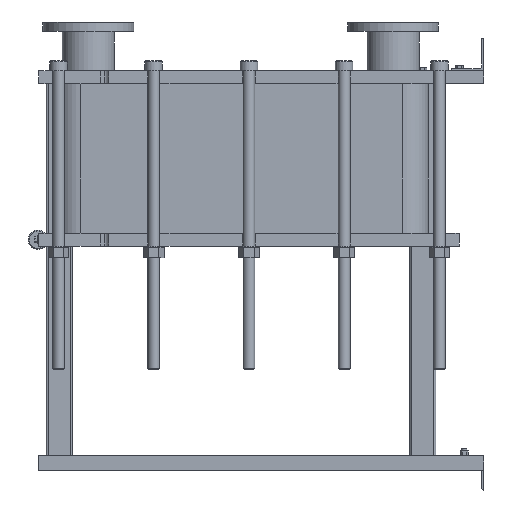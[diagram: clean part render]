
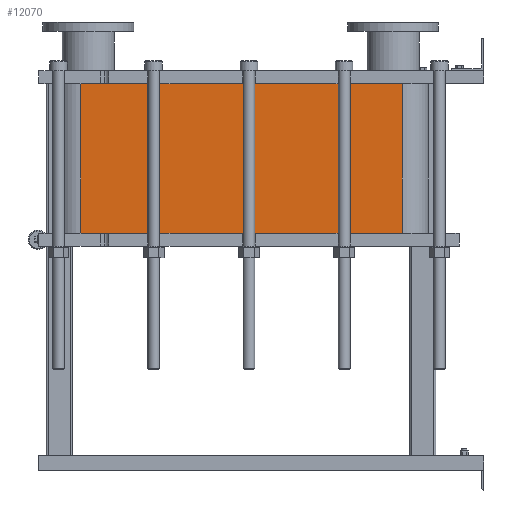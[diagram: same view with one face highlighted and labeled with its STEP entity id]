
A CAD part, left-side view. The second image highlights one B-rep face of the part: STEP entity #12070.
In plain terms, the highlighted planar face has unit normal (-1, 0, 0).
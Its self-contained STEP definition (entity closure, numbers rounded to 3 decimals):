
#1064=LINE('',#21140,#2164);
#1065=LINE('',#21144,#2165);
#1066=LINE('',#21146,#2166);
#1067=LINE('',#21147,#2167);
#2164=VECTOR('',#15790,10.);
#2165=VECTOR('',#15795,10.);
#2166=VECTOR('',#15796,10.);
#2167=VECTOR('',#15797,10.);
#3304=FACE_OUTER_BOUND('',#4091,.T.);
#4091=EDGE_LOOP('',(#9793,#9794,#9795,#9796));
#5677=VERTEX_POINT('',#21137);
#5678=VERTEX_POINT('',#21139);
#5679=VERTEX_POINT('',#21143);
#5680=VERTEX_POINT('',#21145);
#7118=EDGE_CURVE('',#5678,#5677,#1064,.T.);
#7120=EDGE_CURVE('',#5677,#5679,#1065,.T.);
#7121=EDGE_CURVE('',#5680,#5679,#1066,.T.);
#7122=EDGE_CURVE('',#5680,#5678,#1067,.T.);
#9793=ORIENTED_EDGE('',*,*,#7120,.T.);
#9794=ORIENTED_EDGE('',*,*,#7121,.F.);
#9795=ORIENTED_EDGE('',*,*,#7122,.T.);
#9796=ORIENTED_EDGE('',*,*,#7118,.T.);
#11441=PLANE('',#13191);
#12070=ADVANCED_FACE('',(#3304),#11441,.T.);
#13191=AXIS2_PLACEMENT_3D('',#21142,#15793,#15794);
#15790=DIRECTION('',(0.,0.,-1.));
#15793=DIRECTION('center_axis',(-1.,0.,0.));
#15794=DIRECTION('ref_axis',(0.,1.,0.));
#15795=DIRECTION('',(0.,-1.,0.));
#15796=DIRECTION('',(0.,0.,-1.));
#15797=DIRECTION('',(0.,1.,0.));
#21137=CARTESIAN_POINT('',(-248.152,1243.818,-462.3));
#21139=CARTESIAN_POINT('',(-248.152,1243.818,0.));
#21140=CARTESIAN_POINT('',(-248.152,1243.818,0.));
#21142=CARTESIAN_POINT('Origin',(-248.152,251.818,0.));
#21143=CARTESIAN_POINT('',(-248.152,251.818,-462.3));
#21144=CARTESIAN_POINT('',(-248.152,499.818,-462.3));
#21145=CARTESIAN_POINT('',(-248.152,251.818,0.));
#21146=CARTESIAN_POINT('',(-248.152,251.818,0.));
#21147=CARTESIAN_POINT('',(-248.152,251.818,0.));
